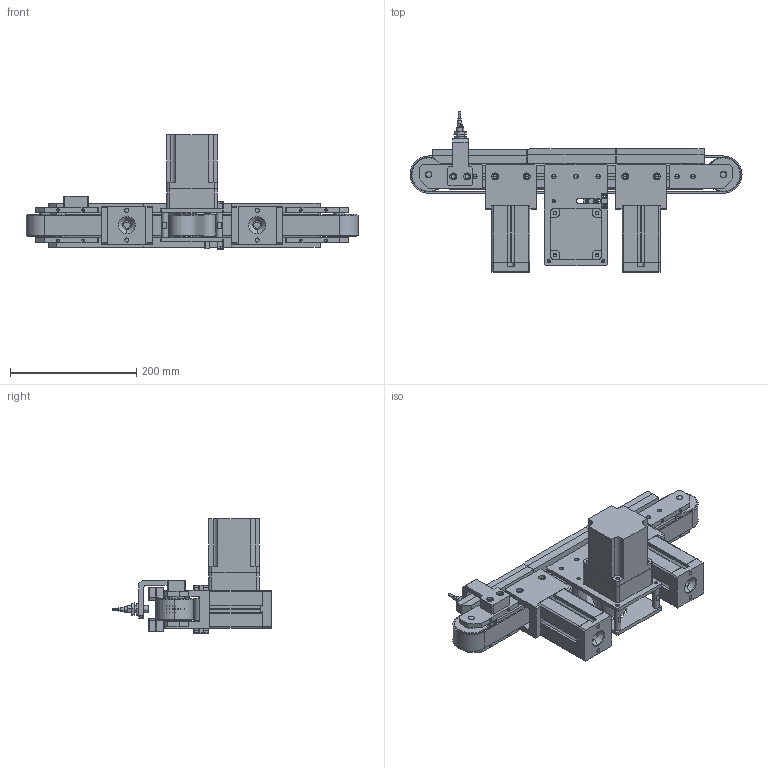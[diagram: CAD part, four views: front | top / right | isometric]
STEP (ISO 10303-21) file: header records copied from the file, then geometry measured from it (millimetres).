
FILE_DESCRIPTION(/* description */ (''),/* implementation_level */ '2;1');
FILE_NAME(/* name */ 'beltconveyor_a038_w32_l500.stp',/* time_stamp */ '2024-12-19T20:55:44+08:00',/* author */ (''),/* organization */ (''),/* preprocessor_version */ 'ST-DEVELOPER v16.7',/* originating_system */ 'SIEMENS PLM Software NX 12.0',/* authorisation */ '');
FILE_SCHEMA (('AUTOMOTIVE_DESIGN { 1 0 10303 214 3 1 1 1 }'));
Products named in the file (34): E2E_X3D1_N_BASE; E2E_X3D1_N_NUT; E2E_X3D1_N_WASHER; T160418-M01U04-P11_預設; T160418-M01U04-P19; T160418-M01U04-P21_对称件; T160418-M01U04-P32; T160418-M01U04-P10_預設; T160418-M01U04-P21; T160418-M01U04-P17_預設; T160418-M01U04-P14_預設; T160418-M01U04-P12_預設; 输送皮带; T160418-M01U04-P18; T160418-M01U04-P05; B6001ZZ; T160418-M01U04-P01; T160418-M01U04-P31_680; T160418-M01U04-P22; T160418-M01U04-P06; T160418-M01U04-P02; T160418-M01U04-P01_对称件; B6800ZZ_預設; T160418-M01U04-P08; S8I25GX-V12CE+S8KA30B+SUA25IX-V12_預設; T160418-M01U04-P20; T160418-M01U04-P15_預設; T160418-M01U04-P04; T160418-M01U04-P03; T160418-M01U04-P13_預設; T160418-M01U04-P09_預設; E2E-X3D1-N-Z 2M; T160418-M01U04-1; beltconveyor_a038_w32_l500
Assembly tree (56 placements, depth 4):
  beltconveyor_a038_w32_l500
    T160418-M01U04-1
      T160418-M01U04-P09_預設
      T160418-M01U04-P13_預設
      T160418-M01U04-P03  x4
      T160418-M01U04-P04  x2
      T160418-M01U04-P15_預設  x2
      T160418-M01U04-P20
      S8I25GX-V12CE+S8KA30B+SUA25IX-V12_預設
      T160418-M01U04-P08  x2
      B6800ZZ_預設  x4
      T160418-M01U04-P01_对称件  x3
      T160418-M01U04-P02  x2
      T160418-M01U04-P06  x2
      T160418-M01U04-P22  x2
      T160418-M01U04-P31_680  x2
      T160418-M01U04-P01
      E2E-X3D1-N-Z 2M
        E2E_X3D1_N_WASHER
        E2E_X3D1_N_NUT  x2
        E2E_X3D1_N_BASE
      B6001ZZ  x4
      T160418-M01U04-P05  x2
      T160418-M01U04-P18  x2
      输送皮带
      T160418-M01U04-P12_預設  x2
      T160418-M01U04-P14_預設
      T160418-M01U04-P17_預設  x2
      T160418-M01U04-P21
      T160418-M01U04-P10_預設
      T160418-M01U04-P32
      T160418-M01U04-P21_对称件
      T160418-M01U04-P19
      T160418-M01U04-P11_預設
Bounding box: 525 x 253 x 181 mm (x, y, z)
Volume: 2709031.1 mm3; surface area: 931362.6 mm2
Topology: 90 solids, 90 shells, 2713 faces, 7032 edges, 4554 vertices
Faces by surface type: plane 1247, cylinder 743, extrusion 369, cone 206, torus 84, sphere 64
Entity records: 64344 total; most frequent: CARTESIAN_POINT 17918, ORIENTED_EDGE 9716, DIRECTION 8234, EDGE_CURVE 4858, VERTEX_POINT 3186, VECTOR 2940, AXIS2_PLACEMENT_3D 2647, LINE 2571
